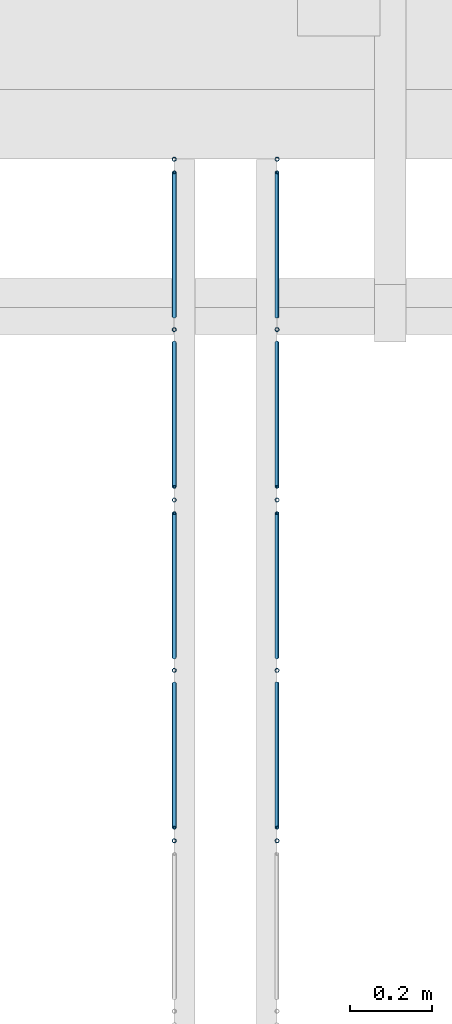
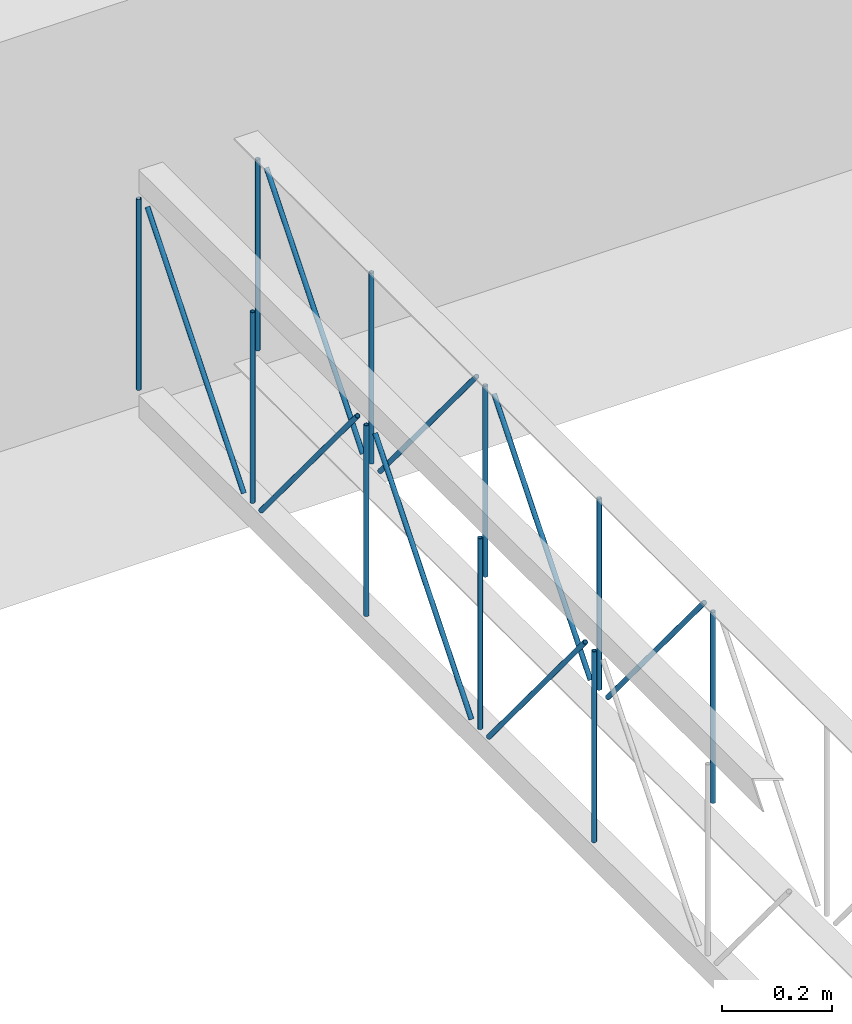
# One storey, part 61 of 153: 18 members, 2 elements without a shape of their own.
"""IFC4 building model written with IfcOpenShell, lengths in metres."""

from ifc_helpers import new_model, entity, si_unit, converted_unit, derived_unit, direction, frame, origin, place, context, subcontext, project, spatial, arc, indexed_curve, outline, extrude, source, transform, mapped, material, type_object, type_shapes, element, aggregate, save


model = new_model("IFC4")

# Units and contexts
model_context = context("Model", 3, precision=1e-05, world=origin(), true_north=direction((6.123031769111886e-17, 1.0)))
body_context = subcontext(model_context, "Body", "Model", "MODEL_VIEW")
ifc_project = project(units=[si_unit("LENGTHUNIT", "METRE"), si_unit("AREAUNIT", "SQUARE_METRE"), si_unit("VOLUMEUNIT", "CUBIC_METRE"), converted_unit("PLANEANGLEUNIT", "DEGREE", entity("IfcRatioMeasure", 0.017453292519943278), si_unit("PLANEANGLEUNIT", "RADIAN"), dimensions=[0, 0, 0, 0, 0, 0, 0]), si_unit("MASSUNIT", "GRAM", prefix="KILO"), derived_unit("MASSDENSITYUNIT", [(si_unit("MASSUNIT", "GRAM", prefix="KILO"), 1), (si_unit("LENGTHUNIT", "METRE"), -3)]), derived_unit("MOMENTOFINERTIAUNIT", [(si_unit("LENGTHUNIT", "METRE"), 4)]), si_unit("TIMEUNIT", "SECOND"), si_unit("FREQUENCYUNIT", "HERTZ"), si_unit("THERMODYNAMICTEMPERATUREUNIT", "DEGREE_CELSIUS"), derived_unit("THERMALTRANSMITTANCEUNIT", [(si_unit("MASSUNIT", "GRAM", prefix="KILO"), 1), (si_unit("THERMODYNAMICTEMPERATUREUNIT", "KELVIN"), -1), (si_unit("TIMEUNIT", "SECOND"), -3)]), derived_unit("VOLUMETRICFLOWRATEUNIT", [(si_unit("LENGTHUNIT", "METRE"), 3), (si_unit("TIMEUNIT", "SECOND"), -1)]), derived_unit("MASSFLOWRATEUNIT", [(si_unit("MASSUNIT", "GRAM", prefix="KILO"), 1), (si_unit("TIMEUNIT", "SECOND"), -1)]), derived_unit("ROTATIONALFREQUENCYUNIT", [(si_unit("TIMEUNIT", "SECOND"), -1)]), si_unit("ELECTRICCURRENTUNIT", "AMPERE"), si_unit("ELECTRICVOLTAGEUNIT", "VOLT"), si_unit("POWERUNIT", "WATT"), si_unit("FORCEUNIT", "NEWTON", prefix="KILO"), si_unit("ILLUMINANCEUNIT", "LUX"), si_unit("LUMINOUSFLUXUNIT", "LUMEN"), si_unit("LUMINOUSINTENSITYUNIT", "CANDELA"), derived_unit("USERDEFINED", [(si_unit("MASSUNIT", "GRAM", prefix="KILO"), -1), (si_unit("LENGTHUNIT", "METRE"), -2), (si_unit("TIMEUNIT", "SECOND"), 3), (si_unit("LUMINOUSFLUXUNIT", "LUMEN"), 1)]), derived_unit("SOUNDPOWERUNIT", [(si_unit("MASSUNIT", "GRAM", prefix="KILO"), 1), (si_unit("LENGTHUNIT", "METRE"), 2), (si_unit("TIMEUNIT", "SECOND"), -3)]), derived_unit("SOUNDPRESSUREUNIT", [(si_unit("MASSUNIT", "GRAM", prefix="KILO"), 1), (si_unit("LENGTHUNIT", "METRE"), -1), (si_unit("TIMEUNIT", "SECOND"), -2)]), derived_unit("LINEARVELOCITYUNIT", [(si_unit("LENGTHUNIT", "METRE"), 1), (si_unit("TIMEUNIT", "SECOND"), -1)]), si_unit("PRESSUREUNIT", "PASCAL"), derived_unit("USERDEFINED", [(si_unit("LENGTHUNIT", "METRE"), -2), (si_unit("MASSUNIT", "GRAM", prefix="KILO"), 1), (si_unit("TIMEUNIT", "SECOND"), -2)]), derived_unit("LINEARFORCEUNIT", [(si_unit("MASSUNIT", "GRAM", prefix="KILO"), 1), (si_unit("LENGTHUNIT", "METRE"), 1), (si_unit("TIMEUNIT", "SECOND"), -2), (si_unit("LENGTHUNIT", "METRE"), -1)]), derived_unit("PLANARFORCEUNIT", [(si_unit("MASSUNIT", "GRAM", prefix="KILO"), 1), (si_unit("LENGTHUNIT", "METRE"), 1), (si_unit("TIMEUNIT", "SECOND"), -2), (si_unit("LENGTHUNIT", "METRE"), -2)])], contexts=[model_context])

# Site, building, storey
site_placement = place(None, origin())
site = spatial("IfcSite", under=ifc_project, at=site_placement, Name="Superficie", CompositionType="ELEMENT")
building_placement = place(site_placement, origin())
building = spatial("IfcBuilding", under=site, at=building_placement, CompositionType="ELEMENT")
storey_placement = place(building_placement, frame((0.0, 0.0, 3.5999999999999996)))
storey = spatial("IfcBuildingStorey", under=building, at=storey_placement, Name="Nivel 1", CompositionType="ELEMENT", Elevation=3.5999999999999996)

# Assembly, members
assembly_1_placement = place(storey_placement, origin())
assembly_1 = element("IfcElementAssembly", 1, at=assembly_1_placement, inside=storey, Name="Viga de celosia 13:Viga de celosia 13", ObjectType="Viga de celosia 13:Viga de celosia 13", AssemblyPlace="NOTDEFINED", PredefinedType="TRUSS")
ifc_material = material(Name="Metal - Calibre delgado", Category="Metal")
member_type_1 = type_object("IfcMemberType", Name="HSS-Tubo estructural redondo:HSS 0.01", PredefinedType="BRACE", material=ifc_material)
shared_shape_1 = source(origin(), body_context, "Body", "SweptSolid", [
    extrude(outline(indexed_curve([(-0.005000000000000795, 7.502054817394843e-18), (-9.800269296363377e-18, -0.005000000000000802), (0.005000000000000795, -7.502054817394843e-18), (8.07772287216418e-18, 0.005000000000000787)], segments=[arc(1, 2, 3), arc(3, 4, 1)], self_intersect=False), holes=[indexed_curve([(0.003999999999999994, 7.222511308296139e-17), (6.910645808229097e-17, -0.004000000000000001), (-0.003999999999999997, -1.8650054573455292e-17), (-2.9156497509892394e-17, 0.003999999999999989)], segments=[arc(1, 2, 3), arc(3, 4, 1)], self_intersect=False)]), frame((-0.21200000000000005, 0.0, 0.0), z_axis=(1.0, 0.0, 0.0), x_axis=(0.0, 1.0, 0.0)), (0.0, 0.0, 1.0), 0.4240000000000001),
])
type_shapes(member_type_1, [shared_shape_1])
member_1_placement = place(assembly_1_placement, frame((-3.9132009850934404, -4.990991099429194, 0.25), z_axis=(0.0, 1.0, 0.0), x_axis=(0.0, 0.0, 1.0)))
member_1 = element("IfcMember", 2, at=member_1_placement, type_object=member_type_1, material=ifc_material, Name="HSS-Tubo estructural redondo:HSS 0.01", ObjectType="HSS-Tubo estructural redondo:HSS 0.01", PredefinedType="BRACE", context=body_context, shape_type="MappedRepresentation", body=[
    mapped(shared_shape_1, transform((0.0, 0.0, 0.0), scale=1.0)),
])
member_2_placement = place(assembly_1_placement, frame((-3.91320098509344, -4.576645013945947, 0.25), z_axis=(0.0, 1.0, 0.0), x_axis=(0.0, 0.0, 1.0)))
member_2 = element("IfcMember", 3, at=member_2_placement, type_object=member_type_1, material=ifc_material, Name="HSS-Tubo estructural redondo:HSS 0.01", ObjectType="HSS-Tubo estructural redondo:HSS 0.01", PredefinedType="BRACE", context=body_context, shape_type="MappedRepresentation", body=[
    mapped(shared_shape_1, transform((0.0, 0.0, 0.0), scale=1.0)),
])
member_3_placement = place(assembly_1_placement, frame((-3.9132009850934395, -4.16229892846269, 0.25), z_axis=(0.0, 1.0, 0.0), x_axis=(0.0, 0.0, 1.0)))
member_3 = element("IfcMember", 4, at=member_3_placement, type_object=member_type_1, material=ifc_material, Name="HSS-Tubo estructural redondo:HSS 0.01", ObjectType="HSS-Tubo estructural redondo:HSS 0.01", PredefinedType="BRACE", context=body_context, shape_type="MappedRepresentation", body=[
    mapped(shared_shape_1, transform((0.0, 0.0, 0.0), scale=1.0)),
])
member_4_placement = place(assembly_1_placement, frame((-3.913200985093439, -3.7479528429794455, 0.25), z_axis=(0.0, 1.0, 0.0), x_axis=(0.0, 0.0, 1.0)))
member_4 = element("IfcMember", 5, at=member_4_placement, type_object=member_type_1, material=ifc_material, Name="HSS-Tubo estructural redondo:HSS 0.01", ObjectType="HSS-Tubo estructural redondo:HSS 0.01", PredefinedType="BRACE", context=body_context, shape_type="MappedRepresentation", body=[
    mapped(shared_shape_1, transform((0.0, 0.0, 0.0), scale=1.0)),
])
member_5_placement = place(assembly_1_placement, frame((-3.9132009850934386, -3.333606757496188, 0.25), z_axis=(0.0, 1.0, 0.0), x_axis=(0.0, 0.0, 1.0)))
member_5 = element("IfcMember", 6, at=member_5_placement, type_object=member_type_1, material=ifc_material, Name="HSS-Tubo estructural redondo:HSS 0.01", ObjectType="HSS-Tubo estructural redondo:HSS 0.01", PredefinedType="BRACE", context=body_context, shape_type="MappedRepresentation", body=[
    mapped(shared_shape_1, transform((0.0, 0.0, 0.0), scale=1.0)),
])
member_type_2 = type_object("IfcMemberType", Name="HSS-Tubo estructural redondo:HSS 0.01", PredefinedType="BRACE", material=ifc_material)
shared_shape_2 = source(origin(), body_context, "Body", "SweptSolid", [
    extrude(outline(indexed_curve([(-0.005000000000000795, 7.502054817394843e-18), (-9.800269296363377e-18, -0.005000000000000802), (0.005000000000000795, -7.502054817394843e-18), (8.07772287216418e-18, 0.005000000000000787)], segments=[arc(1, 2, 3), arc(3, 4, 1)], self_intersect=False), holes=[indexed_curve([(0.003999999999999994, 7.222511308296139e-17), (6.910645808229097e-17, -0.004000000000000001), (-0.003999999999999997, -1.8650054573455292e-17), (-2.9156497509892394e-17, 0.003999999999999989)], segments=[arc(1, 2, 3), arc(3, 4, 1)], self_intersect=False)]), frame((-0.275, 0.0, 0.0), z_axis=(1.0, 0.0, 0.0), x_axis=(0.0, 1.0, 0.0)), (0.0, 0.0, 1.0), 0.55),
])
type_shapes(member_type_2, [shared_shape_2])
member_6_placement = place(assembly_1_placement, frame((-3.91320098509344, -4.78381805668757, 0.25), z_axis=(0.0, -0.7699758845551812, -0.6380729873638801), x_axis=(0.0, 0.6380729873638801, -0.7699758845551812)))
member_6 = element("IfcMember", 7, at=member_6_placement, type_object=member_type_2, material=ifc_material, Name="HSS-Tubo estructural redondo:HSS 0.01", ObjectType="HSS-Tubo estructural redondo:HSS 0.01", PredefinedType="BRACE", context=body_context, shape_type="MappedRepresentation", body=[
    mapped(shared_shape_2, transform((0.0, 0.0, 0.0), scale=1.0)),
])
member_7_placement = place(assembly_1_placement, frame((-3.91320098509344, -4.369471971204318, 0.25), z_axis=(0.0, 0.7699758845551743, -0.6380729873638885), x_axis=(0.0, 0.6380729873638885, 0.7699758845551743)))
member_7 = element("IfcMember", 8, at=member_7_placement, type_object=member_type_2, material=ifc_material, Name="HSS-Tubo estructural redondo:HSS 0.01", ObjectType="HSS-Tubo estructural redondo:HSS 0.01", PredefinedType="BRACE", context=body_context, shape_type="MappedRepresentation", body=[
    mapped(shared_shape_2, transform((0.0, 0.0, 0.0), scale=1.0)),
])
member_8_placement = place(assembly_1_placement, frame((-3.913200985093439, -3.9551258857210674, 0.25), z_axis=(0.0, -0.7699758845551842, -0.6380729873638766), x_axis=(0.0, 0.6380729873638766, -0.7699758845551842)))
member_8 = element("IfcMember", 9, at=member_8_placement, type_object=member_type_2, material=ifc_material, Name="HSS-Tubo estructural redondo:HSS 0.01", ObjectType="HSS-Tubo estructural redondo:HSS 0.01", PredefinedType="BRACE", context=body_context, shape_type="MappedRepresentation", body=[
    mapped(shared_shape_2, transform((0.0, 0.0, 0.0), scale=1.0)),
])
member_9_placement = place(assembly_1_placement, frame((-3.913200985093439, -3.540779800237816, 0.2500000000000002), z_axis=(0.0, 0.7699758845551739, -0.638072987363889), x_axis=(0.0, 0.638072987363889, 0.7699758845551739)))
member_9 = element("IfcMember", 10, at=member_9_placement, type_object=member_type_2, material=ifc_material, Name="HSS-Tubo estructural redondo:HSS 0.01", ObjectType="HSS-Tubo estructural redondo:HSS 0.01", PredefinedType="BRACE", context=body_context, shape_type="MappedRepresentation", body=[
    mapped(shared_shape_2, transform((0.0, 0.0, 0.0), scale=1.0)),
])
aggregate(assembly_1, [member_1, member_2, member_3, member_4, member_5, member_6, member_7, member_8, member_9])

assembly_2_placement = place(storey_placement, origin())
assembly_2 = element("IfcElementAssembly", 11, at=assembly_2_placement, inside=storey, Name="Viga de celosia 13:Viga de celosia 13", ObjectType="Viga de celosia 13:Viga de celosia 13", AssemblyPlace="NOTDEFINED", PredefinedType="TRUSS")
member_type_3 = type_object("IfcMemberType", Name="HSS-Tubo estructural redondo:HSS 0.01", PredefinedType="BRACE", material=ifc_material)
shared_shape_3 = source(origin(), body_context, "Body", "SweptSolid", [
    extrude(outline(indexed_curve([(-0.005000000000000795, 2.0824731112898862e-17), (-2.3122945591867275e-17, -0.005000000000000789), (0.005000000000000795, -2.08247311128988e-17), (2.14003991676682e-17, 0.005000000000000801)], segments=[arc(1, 2, 3), arc(3, 4, 1)], self_intersect=False), holes=[indexed_curve([(0.003999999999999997, -1.3094283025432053e-17), (-1.531427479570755e-18, -0.003999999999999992), (-0.004, 4.0098531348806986e-17), (4.1481388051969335e-17, 0.0039999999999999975)], segments=[arc(1, 2, 3), arc(3, 4, 1)], self_intersect=False)]), frame((-0.21200000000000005, 0.0, 0.0), z_axis=(1.0, 0.0, 0.0), x_axis=(0.0, -1.0, 0.0)), (0.0, 0.0, 1.0), 0.4240000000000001),
])
type_shapes(member_type_3, [shared_shape_3])
member_10_placement = place(assembly_2_placement, frame((-3.663200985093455, -4.990991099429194, 0.25), z_axis=(0.0, 1.0, 0.0), x_axis=(0.0, 0.0, 1.0)))
member_10 = element("IfcMember", 12, at=member_10_placement, type_object=member_type_3, material=ifc_material, Name="HSS-Tubo estructural redondo:HSS 0.01", ObjectType="HSS-Tubo estructural redondo:HSS 0.01", PredefinedType="BRACE", context=body_context, shape_type="MappedRepresentation", body=[
    mapped(shared_shape_3, transform((0.0, 0.0, 0.0), scale=1.0)),
])
member_11_placement = place(assembly_2_placement, frame((-3.663200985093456, -4.576645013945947, 0.25), z_axis=(0.0, 1.0, 0.0), x_axis=(0.0, 0.0, 1.0)))
member_11 = element("IfcMember", 13, at=member_11_placement, type_object=member_type_3, material=ifc_material, Name="HSS-Tubo estructural redondo:HSS 0.01", ObjectType="HSS-Tubo estructural redondo:HSS 0.01", PredefinedType="BRACE", context=body_context, shape_type="MappedRepresentation", body=[
    mapped(shared_shape_3, transform((0.0, 0.0, 0.0), scale=1.0)),
])
member_12_placement = place(assembly_2_placement, frame((-3.6632009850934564, -4.16229892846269, 0.25), z_axis=(0.0, 1.0, 0.0), x_axis=(0.0, 0.0, 1.0)))
member_12 = element("IfcMember", 14, at=member_12_placement, type_object=member_type_3, material=ifc_material, Name="HSS-Tubo estructural redondo:HSS 0.01", ObjectType="HSS-Tubo estructural redondo:HSS 0.01", PredefinedType="BRACE", context=body_context, shape_type="MappedRepresentation", body=[
    mapped(shared_shape_3, transform((0.0, 0.0, 0.0), scale=1.0)),
])
member_13_placement = place(assembly_2_placement, frame((-3.663200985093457, -3.7479528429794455, 0.25), z_axis=(0.0, 1.0, 0.0), x_axis=(0.0, 0.0, 1.0)))
member_13 = element("IfcMember", 15, at=member_13_placement, type_object=member_type_3, material=ifc_material, Name="HSS-Tubo estructural redondo:HSS 0.01", ObjectType="HSS-Tubo estructural redondo:HSS 0.01", PredefinedType="BRACE", context=body_context, shape_type="MappedRepresentation", body=[
    mapped(shared_shape_3, transform((0.0, 0.0, 0.0), scale=1.0)),
])
member_14_placement = place(assembly_2_placement, frame((-3.6632009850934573, -3.333606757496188, 0.25), z_axis=(0.0, 1.0, 0.0), x_axis=(0.0, 0.0, 1.0)))
member_14 = element("IfcMember", 16, at=member_14_placement, type_object=member_type_3, material=ifc_material, Name="HSS-Tubo estructural redondo:HSS 0.01", ObjectType="HSS-Tubo estructural redondo:HSS 0.01", PredefinedType="BRACE", context=body_context, shape_type="MappedRepresentation", body=[
    mapped(shared_shape_3, transform((0.0, 0.0, 0.0), scale=1.0)),
])
member_type_4 = type_object("IfcMemberType", Name="HSS-Tubo estructural redondo:HSS 0.01", PredefinedType="BRACE", material=ifc_material)
shared_shape_4 = source(origin(), body_context, "Body", "SweptSolid", [
    extrude(outline(indexed_curve([(-0.005000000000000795, 2.0824731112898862e-17), (-2.3122945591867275e-17, -0.005000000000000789), (0.005000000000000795, -2.08247311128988e-17), (2.14003991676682e-17, 0.005000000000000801)], segments=[arc(1, 2, 3), arc(3, 4, 1)], self_intersect=False), holes=[indexed_curve([(0.003999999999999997, -1.3094283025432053e-17), (-1.531427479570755e-18, -0.003999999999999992), (-0.004, 4.0098531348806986e-17), (4.1481388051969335e-17, 0.0039999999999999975)], segments=[arc(1, 2, 3), arc(3, 4, 1)], self_intersect=False)]), frame((-0.275, 0.0, 0.0), z_axis=(1.0, 0.0, 0.0), x_axis=(0.0, -1.0, 0.0)), (0.0, 0.0, 1.0), 0.55),
])
type_shapes(member_type_4, [shared_shape_4])
member_15_placement = place(assembly_2_placement, frame((-3.663200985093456, -4.78381805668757, 0.25), z_axis=(0.0, -0.7699758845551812, -0.6380729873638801), x_axis=(0.0, 0.6380729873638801, -0.7699758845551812)))
member_15 = element("IfcMember", 17, at=member_15_placement, type_object=member_type_4, material=ifc_material, Name="HSS-Tubo estructural redondo:HSS 0.01", ObjectType="HSS-Tubo estructural redondo:HSS 0.01", PredefinedType="BRACE", context=body_context, shape_type="MappedRepresentation", body=[
    mapped(shared_shape_4, transform((0.0, 0.0, 0.0), scale=1.0)),
])
member_16_placement = place(assembly_2_placement, frame((-3.663200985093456, -4.369471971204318, 0.25), z_axis=(0.0, 0.7699758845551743, -0.6380729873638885), x_axis=(0.0, 0.6380729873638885, 0.7699758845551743)))
member_16 = element("IfcMember", 18, at=member_16_placement, type_object=member_type_4, material=ifc_material, Name="HSS-Tubo estructural redondo:HSS 0.01", ObjectType="HSS-Tubo estructural redondo:HSS 0.01", PredefinedType="BRACE", context=body_context, shape_type="MappedRepresentation", body=[
    mapped(shared_shape_4, transform((0.0, 0.0, 0.0), scale=1.0)),
])
member_17_placement = place(assembly_2_placement, frame((-3.663200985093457, -3.9551258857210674, 0.25), z_axis=(0.0, -0.7699758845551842, -0.6380729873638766), x_axis=(0.0, 0.6380729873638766, -0.7699758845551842)))
member_17 = element("IfcMember", 19, at=member_17_placement, type_object=member_type_4, material=ifc_material, Name="HSS-Tubo estructural redondo:HSS 0.01", ObjectType="HSS-Tubo estructural redondo:HSS 0.01", PredefinedType="BRACE", context=body_context, shape_type="MappedRepresentation", body=[
    mapped(shared_shape_4, transform((0.0, 0.0, 0.0), scale=1.0)),
])
member_18_placement = place(assembly_2_placement, frame((-3.663200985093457, -3.540779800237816, 0.2500000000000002), z_axis=(0.0, 0.7699758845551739, -0.638072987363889), x_axis=(0.0, 0.638072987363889, 0.7699758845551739)))
member_18 = element("IfcMember", 20, at=member_18_placement, type_object=member_type_4, material=ifc_material, Name="HSS-Tubo estructural redondo:HSS 0.01", ObjectType="HSS-Tubo estructural redondo:HSS 0.01", PredefinedType="BRACE", context=body_context, shape_type="MappedRepresentation", body=[
    mapped(shared_shape_4, transform((0.0, 0.0, 0.0), scale=1.0)),
])
aggregate(assembly_2, [member_10, member_11, member_12, member_13, member_14, member_15, member_16, member_17, member_18])

save(model, "model.ifc")
